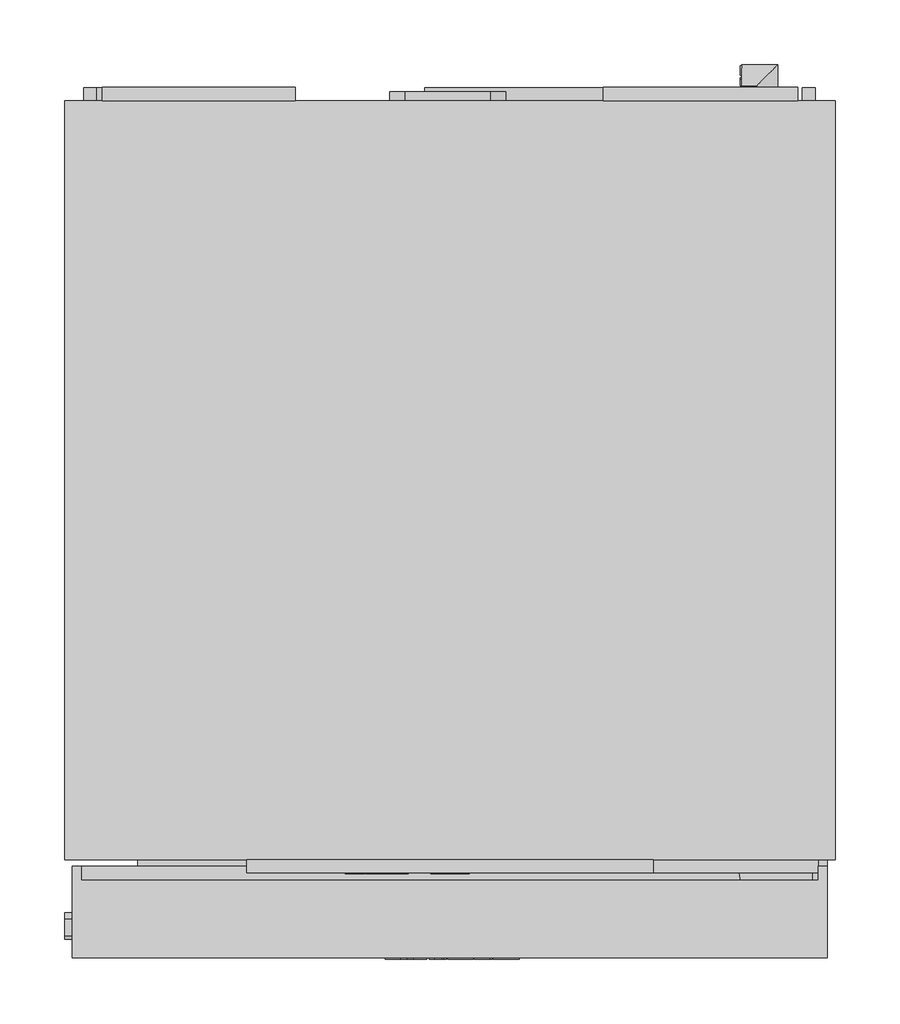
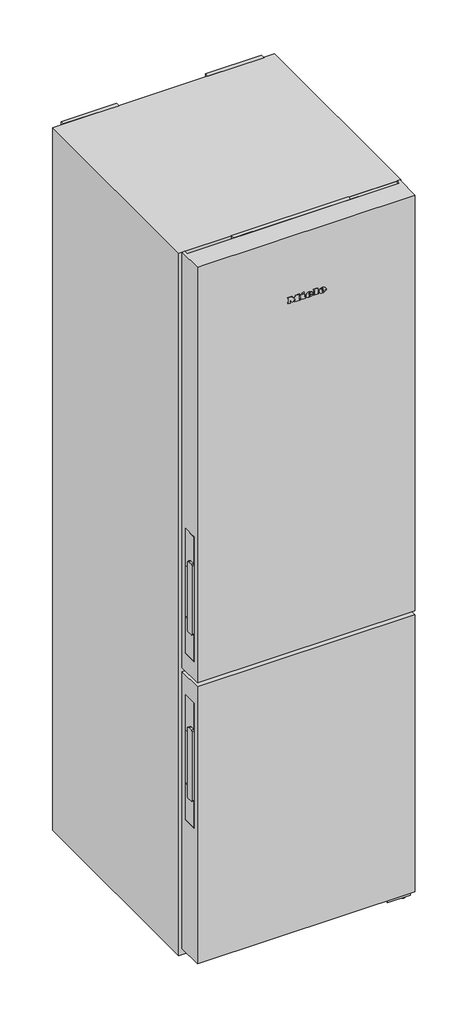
# Not in any storey: 1 proxy.
"""IFC4 building model written with IfcOpenShell, lengths in millimetres."""

from ifc_helpers import new_model, si_unit, origin, place, context, project, spatial, transform, mapped, element, save
from components import specialty_equipment_0567a321

model = new_model("IFC4")

# Units and contexts
model_context = context("Model", 3, world=origin())
ifc_project = project(units=[si_unit("LENGTHUNIT", "METRE", prefix="MILLI")], contexts=[model_context])

# Site, building
site = spatial("IfcSite", under=ifc_project)
building = spatial("IfcBuilding", under=site)

# Proxy
placement = place(None, origin())
specialty_equipment_shape = specialty_equipment_0567a321(model_context)
element("IfcBuildingElementProxy", 1, Name="12551120_OER_KFN4898A-10D_BS : 38489802_OER_12551120_KFN4898A-10D_BS", ObjectType="12551120_OER_KFN4898A-10D_BS : 38489802_OER_12551120_KFN4898A-10D_BS", at=placement, inside=building, context=model_context, shape_type="MappedRepresentation", body=[
    mapped(specialty_equipment_shape, transform((0.0, 0.0, 0.0), x_axis=(1.0, 0.0, 0.0), y_axis=(0.0, 1.0, 0.0), z_axis=(0.0, 0.0, 1.0))),
])

save(model, "model.ifc")
